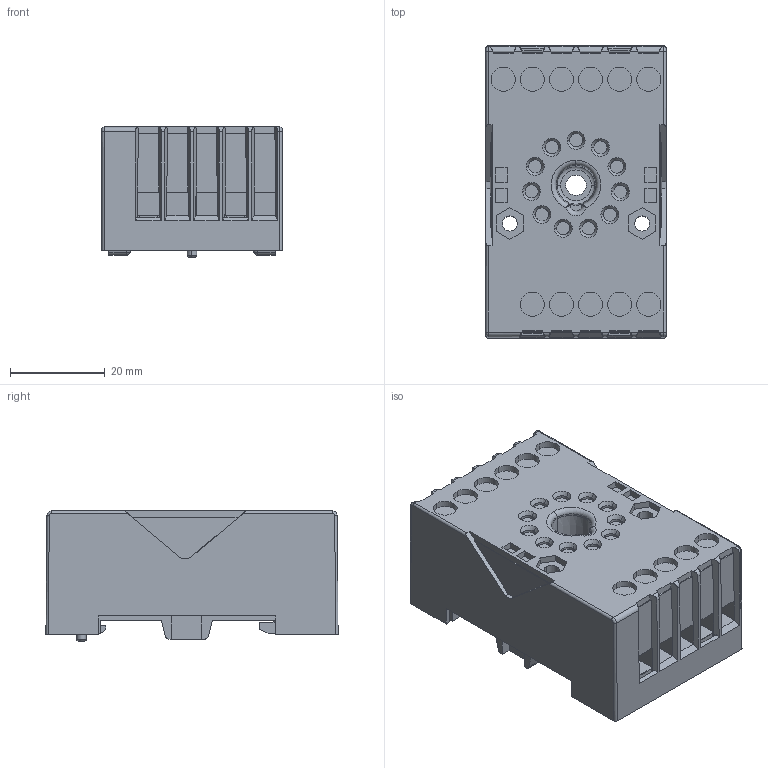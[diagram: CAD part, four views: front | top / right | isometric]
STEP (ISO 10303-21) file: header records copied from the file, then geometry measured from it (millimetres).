
FILE_DESCRIPTION (( 'STEP AP214' ), '1' );
FILE_NAME ('EC-11.STEP', '2024-04-16T12:34:54', ( '' ), ( '' ), 'SwSTEP 2.0', 'SolidWorks 2022', '' );
FILE_SCHEMA (( 'AUTOMOTIVE_DESIGN' ));
Length unit declared in the file: millimetre
Products named in the file (1): EC-11
Bounding box: 38.1 x 61.8 x 27.5 mm (x, y, z)
Volume: 50634.6 mm3; surface area: 15645.5 mm2
Topology: 1 solids, 3 shells, 637 faces, 1694 edges, 1099 vertices
Faces by surface type: plane 478, cylinder 118, cone 24, torus 11, sphere 4, bspline 2
Entity records: 19656 total; most frequent: CARTESIAN_POINT 3635, ORIENTED_EDGE 3384, DIRECTION 3194, EDGE_CURVE 1692, VECTOR 1382, LINE 1382, VERTEX_POINT 1099, AXIS2_PLACEMENT_3D 906
